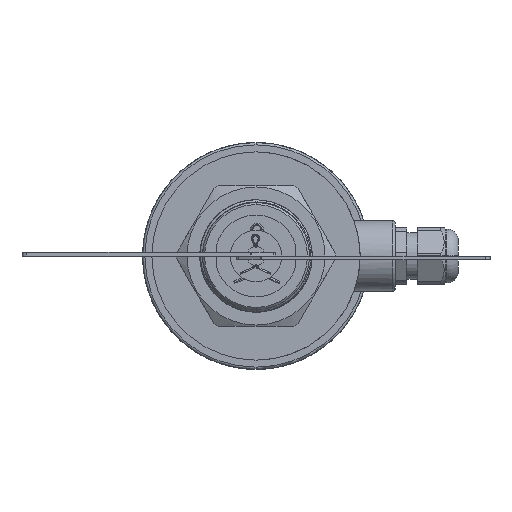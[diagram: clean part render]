
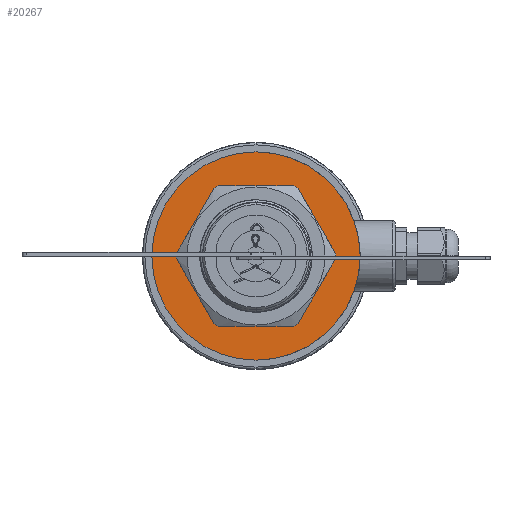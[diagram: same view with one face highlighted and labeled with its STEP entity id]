
A CAD part, front view. The second image highlights one B-rep face of the part: STEP entity #20267.
In plain terms, the highlighted planar face has unit normal (0, -1, 0).
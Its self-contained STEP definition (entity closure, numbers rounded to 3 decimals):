
#819 = ORIENTED_EDGE ( 'NONE', *, *, #29025, .F. ) ;
#1350 = CIRCLE ( 'NONE', #19702, 18. ) ;
#2123 = DIRECTION ( 'NONE',  ( 0., 1., 0. ) ) ;
#2577 = AXIS2_PLACEMENT_3D ( 'NONE', #30132, #7683, #17693 ) ;
#3188 = CARTESIAN_POINT ( 'NONE',  ( 0., 281.2, 0. ) ) ;
#4569 = FACE_BOUND ( 'NONE', #22328, .T. ) ;
#4702 = CARTESIAN_POINT ( 'NONE',  ( 0., 281.2, 0. ) ) ;
#5712 = ORIENTED_EDGE ( 'NONE', *, *, #22526, .T. ) ;
#7683 = DIRECTION ( 'NONE',  ( 0., 1., 0. ) ) ;
#7771 = CARTESIAN_POINT ( 'NONE',  ( 0., 281.2, -18. ) ) ;
#8073 = DIRECTION ( 'NONE',  ( 0., 0., 1. ) ) ;
#8600 = AXIS2_PLACEMENT_3D ( 'NONE', #20550, #30519, #8073 ) ;
#10725 = DIRECTION ( 'NONE',  ( 0., 1., 0. ) ) ;
#12128 = DIRECTION ( 'NONE',  ( 0., 0., 1. ) ) ;
#13049 = CIRCLE ( 'NONE', #31311, 18. ) ;
#14586 = PLANE ( 'NONE',  #31701 ) ;
#14717 = DIRECTION ( 'NONE',  ( 0., 1., 0. ) ) ;
#15390 = CARTESIAN_POINT ( 'NONE',  ( 0., 281.2, -44.5 ) ) ;
#16690 = VERTEX_POINT ( 'NONE', #19278 ) ;
#16695 = CIRCLE ( 'NONE', #2577, 44.5 ) ;
#17693 = DIRECTION ( 'NONE',  ( 0., 0., 1. ) ) ;
#19278 = CARTESIAN_POINT ( 'NONE',  ( 0., 281.2, 18. ) ) ;
#19338 = EDGE_LOOP ( 'NONE', ( #21561, #819 ) ) ;
#19702 = AXIS2_PLACEMENT_3D ( 'NONE', #3188, #10725, #20721 ) ;
#20267 = ADVANCED_FACE ( 'NONE', ( #27027, #4569 ), #14586, .F. ) ;
#20441 = ORIENTED_EDGE ( 'NONE', *, *, #25767, .T. ) ;
#20550 = CARTESIAN_POINT ( 'NONE',  ( 0., 281.2, 0. ) ) ;
#20721 = DIRECTION ( 'NONE',  ( 0., 0., 1. ) ) ;
#21561 = ORIENTED_EDGE ( 'NONE', *, *, #27852, .F. ) ;
#22277 = VERTEX_POINT ( 'NONE', #27129 ) ;
#22328 = EDGE_LOOP ( 'NONE', ( #5712, #20441 ) ) ;
#22526 = EDGE_CURVE ( 'NONE', #16690, #24377, #1350, .T. ) ;
#22751 = CIRCLE ( 'NONE', #8600, 44.5 ) ;
#24377 = VERTEX_POINT ( 'NONE', #7771 ) ;
#24588 = CARTESIAN_POINT ( 'NONE',  ( 44.5, 281.2, 0. ) ) ;
#24721 = DIRECTION ( 'NONE',  ( 0., 0., 1. ) ) ;
#25767 = EDGE_CURVE ( 'NONE', #24377, #16690, #13049, .T. ) ;
#27027 = FACE_OUTER_BOUND ( 'NONE', #19338, .T. ) ;
#27129 = CARTESIAN_POINT ( 'NONE',  ( 0., 281.2, 44.5 ) ) ;
#27852 = EDGE_CURVE ( 'NONE', #22277, #27895, #16695, .T. ) ;
#27895 = VERTEX_POINT ( 'NONE', #15390 ) ;
#29025 = EDGE_CURVE ( 'NONE', #27895, #22277, #22751, .T. ) ;
#30132 = CARTESIAN_POINT ( 'NONE',  ( 0., 281.2, 0. ) ) ;
#30519 = DIRECTION ( 'NONE',  ( 0., 1., 0. ) ) ;
#31311 = AXIS2_PLACEMENT_3D ( 'NONE', #4702, #14717, #24721 ) ;
#31701 = AXIS2_PLACEMENT_3D ( 'NONE', #24588, #2123, #12128 ) ;
